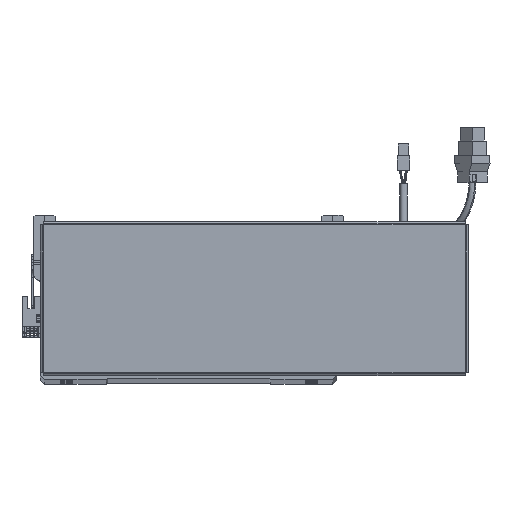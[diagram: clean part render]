
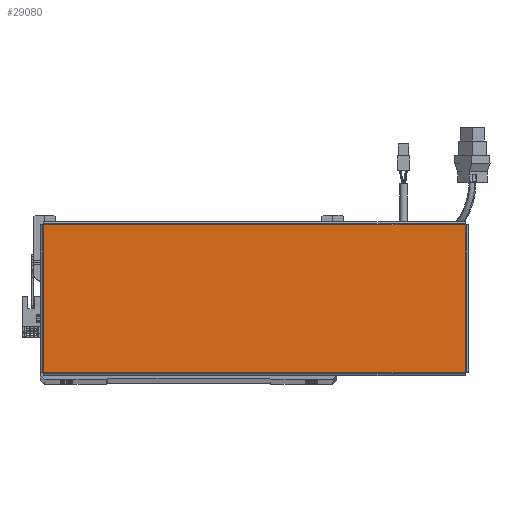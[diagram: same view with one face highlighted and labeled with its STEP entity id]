
A CAD part, top view. The second image highlights one B-rep face of the part: STEP entity #29080.
In plain terms, the highlighted planar face has unit normal (0, 0, 1).
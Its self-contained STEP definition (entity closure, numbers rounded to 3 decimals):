
#983 = EDGE_CURVE ( 'NONE', #27499, #75966, #27896, .T. ) ;
#1339 = DIRECTION ( 'NONE',  ( 0., 0., 1. ) ) ;
#2191 = DIRECTION ( 'NONE',  ( 0., -1., 0. ) ) ;
#13073 = CARTESIAN_POINT ( 'NONE',  ( 156.543, 54.763, 0. ) ) ;
#13563 = DIRECTION ( 'NONE',  ( 1., 0., 0. ) ) ;
#16044 = CARTESIAN_POINT ( 'NONE',  ( 156.513, -54.763, 0. ) ) ;
#18904 = VERTEX_POINT ( 'NONE', #71188 ) ;
#19479 = AXIS2_PLACEMENT_3D ( 'NONE', #55517, #1339, #13563 ) ;
#20996 = CARTESIAN_POINT ( 'NONE',  ( -156.513, -54.763, 0. ) ) ;
#21908 = VECTOR ( 'NONE', #2191, 1000. ) ;
#22719 = FACE_OUTER_BOUND ( 'NONE', #54648, .T. ) ;
#27499 = VERTEX_POINT ( 'NONE', #20996 ) ;
#27896 = LINE ( 'NONE', #31112, #41809 ) ;
#29080 = ADVANCED_FACE ( 'NONE', ( #22719 ), #65103, .T. ) ;
#29190 = EDGE_CURVE ( 'NONE', #18904, #44082, #38492, .T. ) ;
#31112 = CARTESIAN_POINT ( 'NONE',  ( -156.543, -54.763, 0. ) ) ;
#31987 = ORIENTED_EDGE ( 'NONE', *, *, #983, .T. ) ;
#32647 = DIRECTION ( 'NONE',  ( 1., 0., 0. ) ) ;
#33394 = ORIENTED_EDGE ( 'NONE', *, *, #29190, .T. ) ;
#37418 = DIRECTION ( 'NONE',  ( -1., 0., 0. ) ) ;
#37716 = CARTESIAN_POINT ( 'NONE',  ( -156.513, 54.793, 0. ) ) ;
#37754 = CARTESIAN_POINT ( 'NONE',  ( 156.513, -54.793, 0. ) ) ;
#38492 = LINE ( 'NONE', #13073, #52385 ) ;
#41022 = CARTESIAN_POINT ( 'NONE',  ( -156.513, 54.763, 0. ) ) ;
#41809 = VECTOR ( 'NONE', #32647, 1000. ) ;
#44082 = VERTEX_POINT ( 'NONE', #41022 ) ;
#49637 = DIRECTION ( 'NONE',  ( 0., 1., 0. ) ) ;
#51073 = EDGE_CURVE ( 'NONE', #44082, #27499, #72863, .T. ) ;
#52385 = VECTOR ( 'NONE', #37418, 1000. ) ;
#54648 = EDGE_LOOP ( 'NONE', ( #31987, #55333, #33394, #69156 ) ) ;
#55333 = ORIENTED_EDGE ( 'NONE', *, *, #60177, .T. ) ;
#55517 = CARTESIAN_POINT ( 'NONE',  ( 0., 0., 0. ) ) ;
#60177 = EDGE_CURVE ( 'NONE', #75966, #18904, #71718, .T. ) ;
#65103 = PLANE ( 'NONE',  #19479 ) ;
#69156 = ORIENTED_EDGE ( 'NONE', *, *, #51073, .T. ) ;
#71188 = CARTESIAN_POINT ( 'NONE',  ( 156.513, 54.763, 0. ) ) ;
#71718 = LINE ( 'NONE', #37754, #73577 ) ;
#72863 = LINE ( 'NONE', #37716, #21908 ) ;
#73577 = VECTOR ( 'NONE', #49637, 1000. ) ;
#75966 = VERTEX_POINT ( 'NONE', #16044 ) ;
